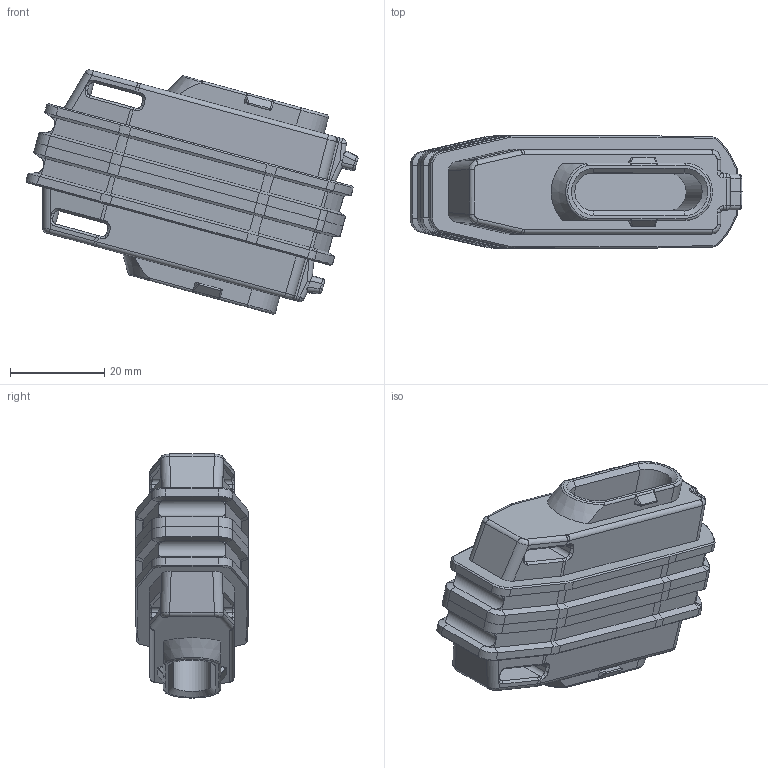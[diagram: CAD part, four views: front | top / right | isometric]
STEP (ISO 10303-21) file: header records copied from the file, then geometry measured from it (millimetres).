
FILE_DESCRIPTION(/* description */ (''),/* implementation_level */ '2;1');
FILE_NAME(/* name */ 'Druck_Bodenplatte_doppelt_d.stp',/* time_stamp */ '2026-07-21T17:24:08+02:00',/* author */ ('Thomas'),/* organization */ (''),/* preprocessor_version */ 'ST-DEVELOPER v20.1',/* originating_system */ 'Autodesk Inventor 2026',/* authorisation */ '');
FILE_SCHEMA (('CONFIG_CONTROL_DESIGN'));
Length unit declared in the file: millimetre
Products named in the file (1): Bodenplatte_doppelt_d
Bounding box: 70.45 x 23.8 x 51.8 mm (x, y, z)
Volume: 38559.1 mm3; surface area: 15155.7 mm2
Topology: 2 solids, 2 shells, 604 faces, 1500 edges, 890 vertices
Faces by surface type: plane 190, cylinder 182, bspline 146, cone 78, torus 4, sphere 4
Entity records: 25960 total; most frequent: CARTESIAN_POINT 11980, ORIENTED_EDGE 2976, DIRECTION 2574, EDGE_CURVE 1488, AXIS2_PLACEMENT_3D 925, VERTEX_POINT 890, LINE 724, VECTOR 724
